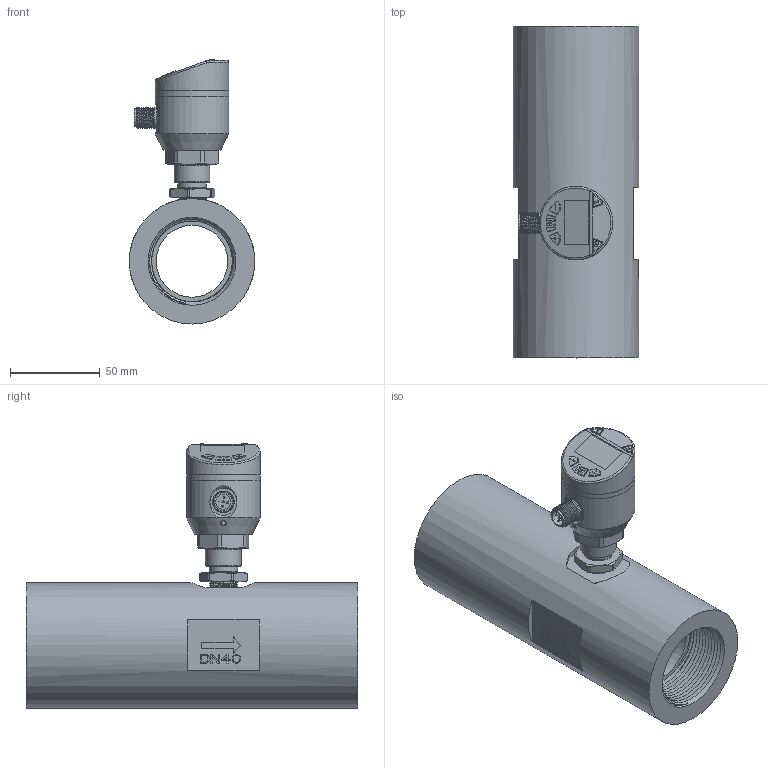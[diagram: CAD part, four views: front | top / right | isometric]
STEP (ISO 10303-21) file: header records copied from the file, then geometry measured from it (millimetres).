
FILE_DESCRIPTION( (''), '2;1');
FILE_NAME( 'QTKA_DN40_female-thread.step', '2024-01-11T15:17:54+08:00', (''), (''), '', '', '');
FILE_SCHEMA (('AUTOMOTIVE_DESIGN { 1 0 10303 214 3 1 1 1 }'));
Length unit declared in the file: millimetre
Products named in the file (1): QTKA DN40_female-thread
Bounding box: 70 x 185 x 147.3 mm (x, y, z)
Volume: 482694.8 mm3; surface area: 103127.2 mm2
Topology: 5 solids, 7 shells, 558 faces, 1385 edges, 885 vertices
Faces by surface type: plane 264, cylinder 140, bspline 60, cone 49, torus 39, sphere 6
Full cylindrical faces by diameter (mm): 1 x5, 2.7 x4, 8.4 x1, 9.7 x1, 9.8 x1, 10.1 x1, 11.6 x1, 12 x1, 15 x1, 15.9 x1, 20 x1, 23 x3, 26 x4, 26.1 x1, 37 x1, 40 x1, 41 x3, 45 x2, 70 x1
Entity records: 35190 total; most frequent: CARTESIAN_POINT 21258, ORIENTED_EDGE 2572, DIRECTION 2419, EDGE_CURVE 1286, AXIS2_PLACEMENT_3D 866, VERTEX_POINT 844, LINE 687, VECTOR 687
